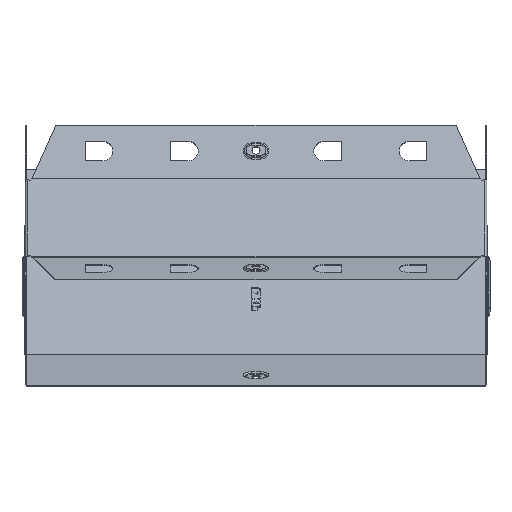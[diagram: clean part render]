
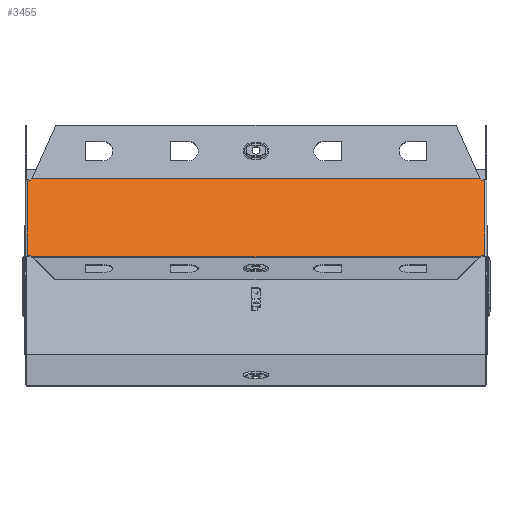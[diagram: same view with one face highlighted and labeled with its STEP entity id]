
A CAD part, front view. The second image highlights one B-rep face of the part: STEP entity #3455.
In plain terms, the highlighted planar face has unit normal (0, -0.707, 0.707).
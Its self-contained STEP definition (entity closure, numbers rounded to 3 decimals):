
#16 = ORIENTED_EDGE ( 'NONE', *, *, #11904, .T. ) ;
#58 = CARTESIAN_POINT ( 'NONE',  ( -194.345, 69.859, -2.258 ) ) ;
#67 = AXIS2_PLACEMENT_3D ( 'NONE', #7918, #4082, #6048 ) ;
#95 = PLANE ( 'NONE',  #67 ) ;
#247 = LINE ( 'NONE', #4661, #7575 ) ;
#538 = VERTEX_POINT ( 'NONE', #11834 ) ;
#648 = ORIENTED_EDGE ( 'NONE', *, *, #1538, .T. ) ;
#1046 = VECTOR ( 'NONE', #10988, 1000. ) ;
#1401 = ORIENTED_EDGE ( 'NONE', *, *, #10043, .T. ) ;
#1538 = EDGE_CURVE ( 'NONE', #1651, #11936, #11439, .T. ) ;
#1590 = DIRECTION ( 'NONE',  ( 0., -0.707, -0.707 ) ) ;
#1651 = VERTEX_POINT ( 'NONE', #6155 ) ;
#1787 = VECTOR ( 'NONE', #4723, 1000. ) ;
#1826 = ORIENTED_EDGE ( 'NONE', *, *, #3119, .T. ) ;
#1990 = DIRECTION ( 'NONE',  ( 0.924, -0.271, -0.271 ) ) ;
#2017 = VERTEX_POINT ( 'NONE', #58 ) ;
#2085 = ORIENTED_EDGE ( 'NONE', *, *, #3692, .F. ) ;
#2121 = ORIENTED_EDGE ( 'NONE', *, *, #4458, .T. ) ;
#2307 = VERTEX_POINT ( 'NONE', #7708 ) ;
#2328 = DIRECTION ( 'NONE',  ( -1., 0., 0. ) ) ;
#2432 = CARTESIAN_POINT ( 'NONE',  ( 198.2, 70., -2.118 ) ) ;
#2438 = DIRECTION ( 'NONE',  ( -0.924, 0.271, 0.271 ) ) ;
#2741 = VERTEX_POINT ( 'NONE', #5985 ) ;
#2798 = EDGE_CURVE ( 'NONE', #2307, #1651, #12376, .T. ) ;
#3119 = EDGE_CURVE ( 'NONE', #11936, #2017, #5414, .T. ) ;
#3242 = VECTOR ( 'NONE', #9397, 1000. ) ;
#3455 = ADVANCED_FACE ( 'NONE', ( #4887 ), #95, .F. ) ;
#3592 = ORIENTED_EDGE ( 'NONE', *, *, #5880, .T. ) ;
#3594 = VECTOR ( 'NONE', #5250, 1000. ) ;
#3610 = CARTESIAN_POINT ( 'NONE',  ( -200.299, 2.258, -69.859 ) ) ;
#3692 = EDGE_CURVE ( 'NONE', #2307, #6512, #11263, .T. ) ;
#3701 = CARTESIAN_POINT ( 'NONE',  ( 194.345, 2.258, -69.859 ) ) ;
#4075 = CARTESIAN_POINT ( 'NONE',  ( 200.299, 69.859, -2.258 ) ) ;
#4082 = DIRECTION ( 'NONE',  ( 0., 0.707, -0.707 ) ) ;
#4115 = ORIENTED_EDGE ( 'NONE', *, *, #2798, .T. ) ;
#4191 = CARTESIAN_POINT ( 'NONE',  ( -198.2, 69.245, -2.873 ) ) ;
#4194 = LINE ( 'NONE', #11861, #3594 ) ;
#4458 = EDGE_CURVE ( 'NONE', #10719, #11274, #5822, .T. ) ;
#4568 = DIRECTION ( 'NONE',  ( 0.924, 0.271, 0.271 ) ) ;
#4661 = CARTESIAN_POINT ( 'NONE',  ( 173.5, -33.327, -105.445 ) ) ;
#4697 = VERTEX_POINT ( 'NONE', #3701 ) ;
#4723 = DIRECTION ( 'NONE',  ( -0.383, 0.653, 0.653 ) ) ;
#4812 = VECTOR ( 'NONE', #12013, 1000. ) ;
#4887 = FACE_OUTER_BOUND ( 'NONE', #9805, .T. ) ;
#4902 = CARTESIAN_POINT ( 'NONE',  ( 194.345, 69.859, -2.258 ) ) ;
#4948 = EDGE_CURVE ( 'NONE', #4697, #538, #4194, .T. ) ;
#5250 = DIRECTION ( 'NONE',  ( -1., 0., 0. ) ) ;
#5414 = LINE ( 'NONE', #8200, #11454 ) ;
#5699 = DIRECTION ( 'NONE',  ( -0.383, -0.653, -0.653 ) ) ;
#5822 = LINE ( 'NONE', #9360, #3242 ) ;
#5880 = EDGE_CURVE ( 'NONE', #6416, #10719, #8513, .T. ) ;
#5915 = VECTOR ( 'NONE', #5699, 1000. ) ;
#5985 = CARTESIAN_POINT ( 'NONE',  ( 195.217, 3.747, -68.371 ) ) ;
#6048 = DIRECTION ( 'NONE',  ( 0., 0.707, 0.707 ) ) ;
#6155 = CARTESIAN_POINT ( 'NONE',  ( 195.217, 68.371, -3.747 ) ) ;
#6229 = LINE ( 'NONE', #8660, #5915 ) ;
#6325 = CARTESIAN_POINT ( 'NONE',  ( -200.299, 69.859, -2.258 ) ) ;
#6416 = VERTEX_POINT ( 'NONE', #11127 ) ;
#6512 = VERTEX_POINT ( 'NONE', #7316 ) ;
#6548 = EDGE_CURVE ( 'NONE', #2741, #6512, #9898, .T. ) ;
#6862 = ORIENTED_EDGE ( 'NONE', *, *, #4948, .F. ) ;
#7039 = ORIENTED_EDGE ( 'NONE', *, *, #9097, .T. ) ;
#7285 = LINE ( 'NONE', #11096, #4812 ) ;
#7316 = CARTESIAN_POINT ( 'NONE',  ( 198.2, 2.873, -69.245 ) ) ;
#7575 = VECTOR ( 'NONE', #10577, 1000. ) ;
#7708 = CARTESIAN_POINT ( 'NONE',  ( 198.2, 69.245, -2.873 ) ) ;
#7837 = CARTESIAN_POINT ( 'NONE',  ( 200.299, 2.258, -69.859 ) ) ;
#7918 = CARTESIAN_POINT ( 'NONE',  ( 198.2, 70., -2.118 ) ) ;
#7933 = VERTEX_POINT ( 'NONE', #12134 ) ;
#8200 = CARTESIAN_POINT ( 'NONE',  ( 198.2, 69.859, -2.258 ) ) ;
#8221 = EDGE_CURVE ( 'NONE', #2017, #6416, #6229, .T. ) ;
#8513 = LINE ( 'NONE', #6325, #12490 ) ;
#8660 = CARTESIAN_POINT ( 'NONE',  ( -173.5, 105.445, 33.327 ) ) ;
#9097 = EDGE_CURVE ( 'NONE', #7933, #538, #7285, .T. ) ;
#9360 = CARTESIAN_POINT ( 'NONE',  ( -198.2, 70., -2.118 ) ) ;
#9372 = LINE ( 'NONE', #3610, #10150 ) ;
#9397 = DIRECTION ( 'NONE',  ( 0., -0.707, -0.707 ) ) ;
#9750 = CARTESIAN_POINT ( 'NONE',  ( 173.5, 105.445, 33.327 ) ) ;
#9805 = EDGE_LOOP ( 'NONE', ( #7039, #6862, #16, #11625, #2085, #4115, #648, #1826, #12351, #3592, #2121, #1401 ) ) ;
#9888 = VECTOR ( 'NONE', #1590, 1000. ) ;
#9898 = LINE ( 'NONE', #7837, #10047 ) ;
#10043 = EDGE_CURVE ( 'NONE', #11274, #7933, #9372, .T. ) ;
#10047 = VECTOR ( 'NONE', #1990, 1000. ) ;
#10150 = VECTOR ( 'NONE', #4568, 1000. ) ;
#10577 = DIRECTION ( 'NONE',  ( 0.383, 0.653, 0.653 ) ) ;
#10719 = VERTEX_POINT ( 'NONE', #4191 ) ;
#10988 = DIRECTION ( 'NONE',  ( -0.924, -0.271, -0.271 ) ) ;
#11096 = CARTESIAN_POINT ( 'NONE',  ( -173.5, -33.327, -105.445 ) ) ;
#11127 = CARTESIAN_POINT ( 'NONE',  ( -195.217, 68.371, -3.747 ) ) ;
#11263 = LINE ( 'NONE', #2432, #9888 ) ;
#11274 = VERTEX_POINT ( 'NONE', #12018 ) ;
#11439 = LINE ( 'NONE', #9750, #1787 ) ;
#11454 = VECTOR ( 'NONE', #2328, 1000. ) ;
#11625 = ORIENTED_EDGE ( 'NONE', *, *, #6548, .T. ) ;
#11834 = CARTESIAN_POINT ( 'NONE',  ( -194.345, 2.258, -69.859 ) ) ;
#11861 = CARTESIAN_POINT ( 'NONE',  ( 198.2, 2.258, -69.859 ) ) ;
#11904 = EDGE_CURVE ( 'NONE', #4697, #2741, #247, .T. ) ;
#11936 = VERTEX_POINT ( 'NONE', #4902 ) ;
#12013 = DIRECTION ( 'NONE',  ( 0.383, -0.653, -0.653 ) ) ;
#12018 = CARTESIAN_POINT ( 'NONE',  ( -198.2, 2.873, -69.245 ) ) ;
#12134 = CARTESIAN_POINT ( 'NONE',  ( -195.217, 3.747, -68.371 ) ) ;
#12351 = ORIENTED_EDGE ( 'NONE', *, *, #8221, .T. ) ;
#12376 = LINE ( 'NONE', #4075, #1046 ) ;
#12490 = VECTOR ( 'NONE', #2438, 1000. ) ;
